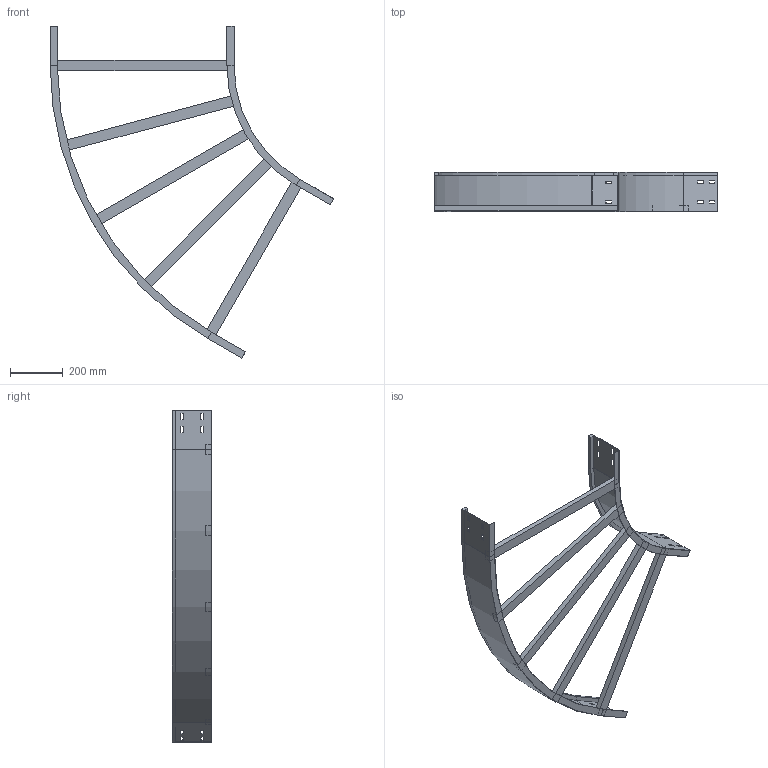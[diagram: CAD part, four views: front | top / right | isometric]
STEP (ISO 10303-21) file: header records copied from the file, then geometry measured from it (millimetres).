
FILE_DESCRIPTION (( 'STEP AP214' ), '1' );
FILE_NAME ('13J5F700.step', '2025-02-21T16:24:54', ( '' ), ( '' ), 'SwSTEP 2.0', 'SolidWorks 2023', '' );
FILE_SCHEMA (( 'AUTOMOTIVE_DESIGN' ));
Length unit declared in the file: millimetre
Products named in the file (4): LONGH.ESTERNO 60°_H150_R500+700; LONGH.INTERNO 60°_H150_R500; TRAVERSINO_700; 13J5F700
Assembly tree (7 placements, depth 2):
  13J5F700
    LONGH.INTERNO 60°_H150_R500
    LONGH.ESTERNO 60°_H150_R500+700
    TRAVERSINO_700  x5
Bounding box: 1079.9 x 150 x 1264.23 mm (x, y, z)
Volume: 4101687.8 mm3; surface area: 1345095 mm2
Topology: 7 solids, 7 shells, 146 faces, 364 edges, 232 vertices
Faces by surface type: plane 138, cylinder 8
Entity records: 3837 total; most frequent: CARTESIAN_POINT 648, ORIENTED_EDGE 632, DIRECTION 596, EDGE_CURVE 316, LINE 300, VECTOR 300, VERTEX_POINT 200, EDGE_LOOP 154
